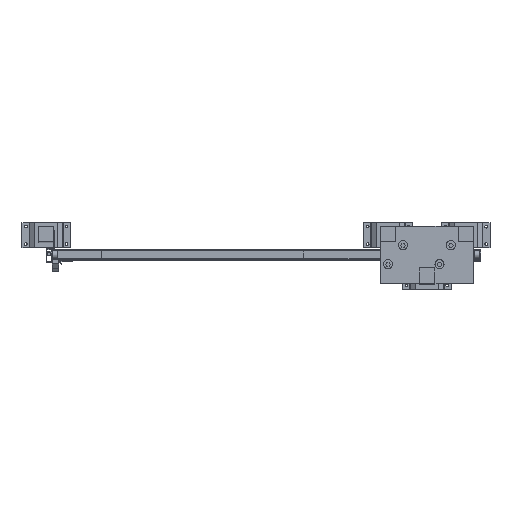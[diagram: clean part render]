
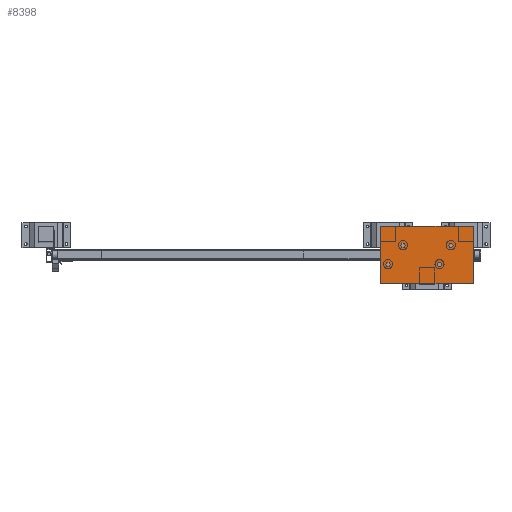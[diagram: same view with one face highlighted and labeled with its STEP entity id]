
A CAD part, top view. The second image highlights one B-rep face of the part: STEP entity #8398.
In plain terms, the highlighted planar face has unit normal (0, 0, 1).
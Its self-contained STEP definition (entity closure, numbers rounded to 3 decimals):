
#1131=FACE_OUTER_BOUND('',#1564,.T.);
#1564=EDGE_LOOP('',(#6707,#6708,#6709,#6710));
#2393=LINE('',#13033,#3483);
#2394=LINE('',#13035,#3484);
#2395=LINE('',#13037,#3485);
#2396=LINE('',#13038,#3486);
#3483=VECTOR('',#10335,1.);
#3484=VECTOR('',#10336,1.);
#3485=VECTOR('',#10337,1.);
#3486=VECTOR('',#10338,1.);
#4299=VERTEX_POINT('',#13031);
#4300=VERTEX_POINT('',#13032);
#4301=VERTEX_POINT('',#13034);
#4302=VERTEX_POINT('',#13036);
#5194=EDGE_CURVE('',#4299,#4300,#2393,.T.);
#5195=EDGE_CURVE('',#4301,#4299,#2394,.T.);
#5196=EDGE_CURVE('',#4301,#4302,#2395,.T.);
#5197=EDGE_CURVE('',#4300,#4302,#2396,.T.);
#6707=ORIENTED_EDGE('',*,*,#5194,.F.);
#6708=ORIENTED_EDGE('',*,*,#5195,.F.);
#6709=ORIENTED_EDGE('',*,*,#5196,.T.);
#6710=ORIENTED_EDGE('',*,*,#5197,.F.);
#8007=PLANE('',#8923);
#8398=ADVANCED_FACE('',(#1131),#8007,.T.);
#8923=AXIS2_PLACEMENT_3D('',#13030,#10333,#10334);
#10333=DIRECTION('center_axis',(0.,0.,1.));
#10334=DIRECTION('ref_axis',(1.,0.,0.));
#10335=DIRECTION('',(0.,1.,0.));
#10336=DIRECTION('',(-1.,0.,0.));
#10337=DIRECTION('',(0.,1.,0.));
#10338=DIRECTION('',(1.,0.,0.));
#13030=CARTESIAN_POINT('Origin',(3334.404,1784.689,2533.));
#13031=CARTESIAN_POINT('',(3334.404,1784.689,2533.));
#13032=CARTESIAN_POINT('',(3334.404,2014.689,2533.));
#13033=CARTESIAN_POINT('',(3334.404,1784.689,2533.));
#13034=CARTESIAN_POINT('',(3704.404,1784.689,2533.));
#13035=CARTESIAN_POINT('',(3704.404,1784.689,2533.));
#13036=CARTESIAN_POINT('',(3704.404,2014.689,2533.));
#13037=CARTESIAN_POINT('',(3704.404,1784.689,2533.));
#13038=CARTESIAN_POINT('',(3519.404,2014.689,2533.));
